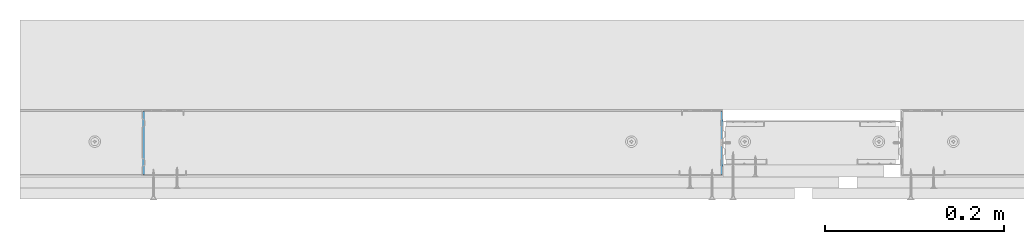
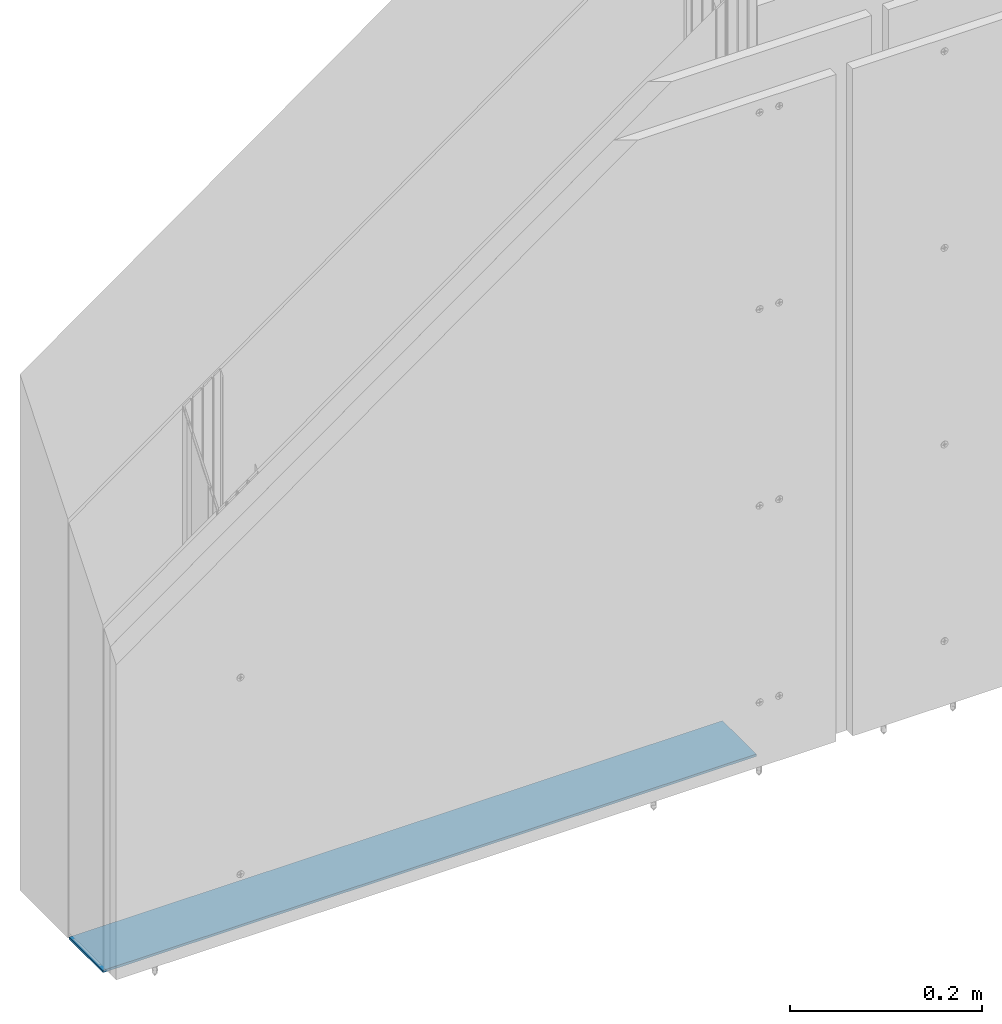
# One storey, part 3 of 39: 1 wall.
"""IFC2X3 building model written with IfcOpenShell, lengths in millimetres."""

from ifc_helpers import new_model, entity, si_unit, converted_unit, direction, frame, origin, origin_with_axes, place, context, project, spatial, faceted_brep, element, save


model = new_model("IFC2X3")

# Units and contexts
model_context = context("Model", 3, precision=1e-05, world=origin(), true_north=direction((0.0, 1.0, 0.0)))
ifc_project = project(units=[si_unit("LENGTHUNIT", "METRE", prefix="MILLI"), si_unit("AREAUNIT", "SQUARE_METRE"), si_unit("VOLUMEUNIT", "CUBIC_METRE"), converted_unit("PLANEANGLEUNIT", "DEGREE", entity("IfcPlaneAngleMeasure", 0.01745), si_unit("PLANEANGLEUNIT", "RADIAN"), dimensions=[0, 0, 0, 0, 0, 0, 0]), si_unit("SOLIDANGLEUNIT", "STERADIAN"), si_unit("MASSUNIT", "GRAM"), si_unit("TIMEUNIT", "SECOND"), si_unit("THERMODYNAMICTEMPERATUREUNIT", "DEGREE_CELSIUS"), si_unit("LUMINOUSINTENSITYUNIT", "LUMEN")], contexts=[model_context])

# Site, building, storey
site_placement = place(None, origin_with_axes())
site = spatial("IfcSite", under=ifc_project, at=site_placement, Name="Default Site", CompositionType="ELEMENT")
building_placement = place(site_placement, origin_with_axes())
building = spatial("IfcBuilding", under=site, at=building_placement, Name="Default Building", CompositionType="ELEMENT")
storey_placement = place(building_placement, origin_with_axes())
storey = spatial("IfcBuildingStorey", under=building, at=storey_placement, Name="Default Building Storey", CompositionType="ELEMENT", Elevation=0.0)

# Wall
wall_placement = place(storey_placement, frame((1825.000000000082, 1992.890922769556, 2.384025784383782), z_axis=(0.0, 0.0, 1.0), x_axis=(1.0, 0.0, 0.0)))
element("IfcWall", 1, at=wall_placement, inside=storey, Name="Taśma uszczelniająca piankowa RIGIPS", context=model_context, shape_type="Brep", body=[
    faceted_brep([(300.0251334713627, -43.50000002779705, 2.998418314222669), (1085.884879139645, -43.50000002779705, 2.998418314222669), (1085.884879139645, 26.69999997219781, 3.001783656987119), (300.0251334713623, 26.69999997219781, 3.001783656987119), (300.0251334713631, -43.50000002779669, -2.129427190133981e-12), (1085.884879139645, -43.50000002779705, -2.129427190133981e-12), (300.0251334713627, 26.69999997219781, 0.001783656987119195), (1085.884879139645, 26.69999997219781, 0.001783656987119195)], [[[0, 1, 2, 3]], [[1, 0, 4, 5]], [[5, 4, 6, 7]], [[3, 6, 4, 0]], [[7, 6, 3, 2]], [[2, 1, 5, 7]]]),
])

save(model, "model.ifc")
